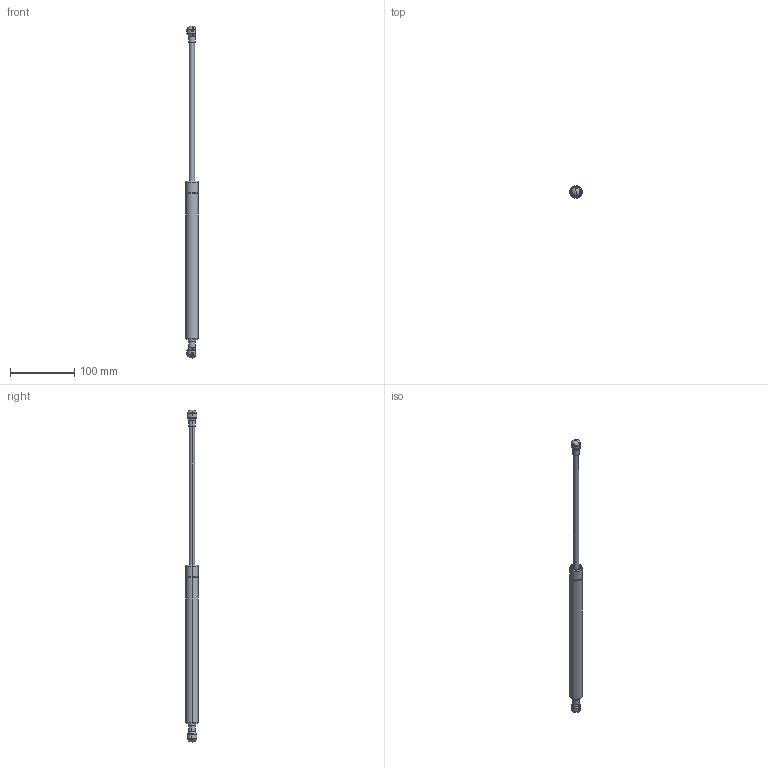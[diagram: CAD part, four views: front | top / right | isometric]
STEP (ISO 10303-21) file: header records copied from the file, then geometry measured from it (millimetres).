
FILE_DESCRIPTION (( 'STEP AP214' ), '1' );
FILE_NAME ('GS08-0775MD10.STEP', '2011-03-29T18:59:01', ( 'user' ), ( '' ), 'SwSTEP 2.0', 'SolidWorks 2011', '' );
FILE_SCHEMA (( 'AUTOMOTIVE_DESIGN' ));
Length unit declared in the file: millimetre
Products named in the file (5): GS08-0775MD10; socket; GS08-0775MD10-TUBE; GS08-0775MD10-SHAFT; GS08-0775MD10-NC
Assembly tree (5 placements, depth 3):
  GS08-0775MD10
    socket  x2
    GS08-0775MD10-NC
      GS08-0775MD10-TUBE
      GS08-0775MD10-SHAFT
Bounding box: 19 x 19 x 516.5 mm (x, y, z)
Volume: 74069 mm3; surface area: 30091 mm2
Topology: 4 solids, 4 shells, 183 faces, 504 edges, 332 vertices
Faces by surface type: plane 77, cylinder 68, torus 18, sphere 16, cone 4
Entity records: 4522 total; most frequent: CARTESIAN_POINT 890, DIRECTION 592, ORIENTED_EDGE 548, EDGE_CURVE 274, AXIS2_PLACEMENT_3D 244, VERTEX_POINT 179, CIRCLE 130, EDGE_LOOP 111
